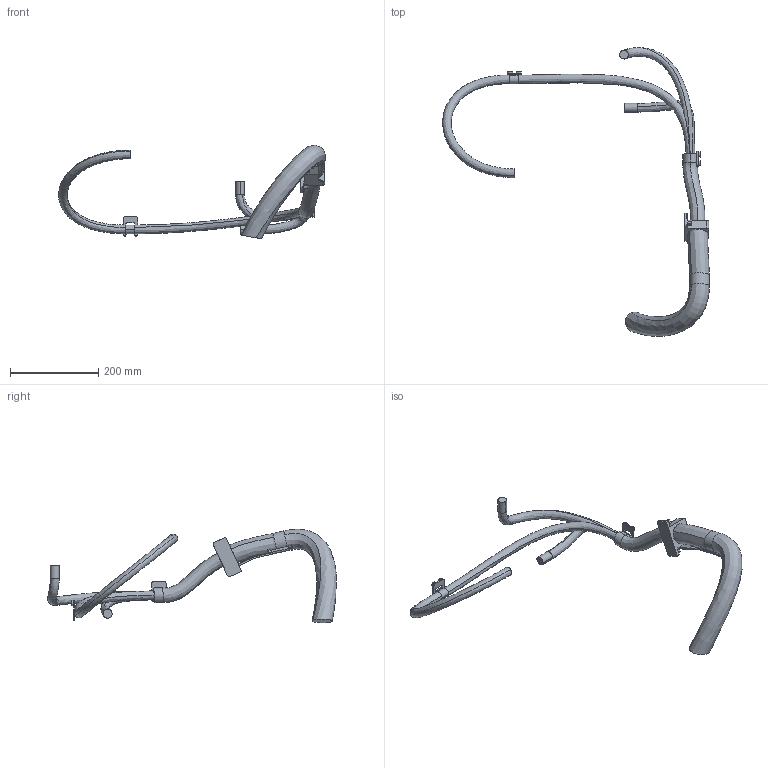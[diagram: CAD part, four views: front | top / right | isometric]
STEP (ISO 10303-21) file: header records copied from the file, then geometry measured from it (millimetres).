
FILE_DESCRIPTION (( 'STEP AP214' ), '1' );
FILE_NAME ('IRB6720-LID_150kg-310_OC_00_LINK03m_CABLE.step', '2026-05-26T07:55:31', ( '' ), ( '' ), 'SwSTEP 2.0', 'SolidWorks 2024', '' );
FILE_SCHEMA (( 'AUTOMOTIVE_DESIGN' ));
Length unit declared in the file: millimetre
Products named in the file (1): IRB6720-LID_150kg-310_OC_00_LINK03m_CABLE
Bounding box: 604.53 x 654.68 x 211.87 mm (x, y, z)
Volume: 1361017.2 mm3; surface area: 193433.1 mm2
Topology: 1 solids, 1 shells, 200 faces, 535 edges, 343 vertices
Faces by surface type: plane 109, cylinder 74, bspline 17
Entity records: 13306 total; most frequent: CARTESIAN_POINT 6149, ORIENTED_EDGE 1070, DIRECTION 994, EDGE_CURVE 535, AXIS2_PLACEMENT_3D 348, VERTEX_POINT 343, VECTOR 298, LINE 298
